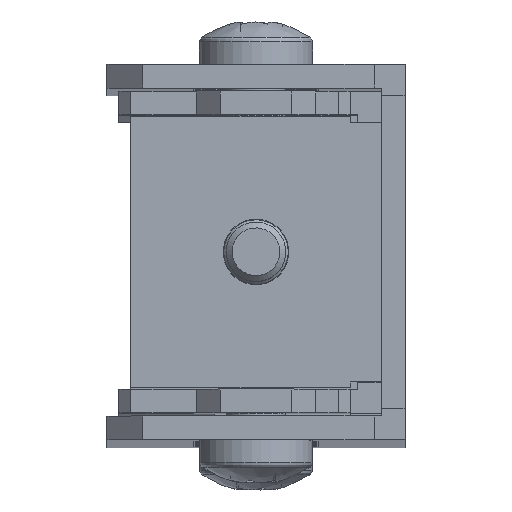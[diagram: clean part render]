
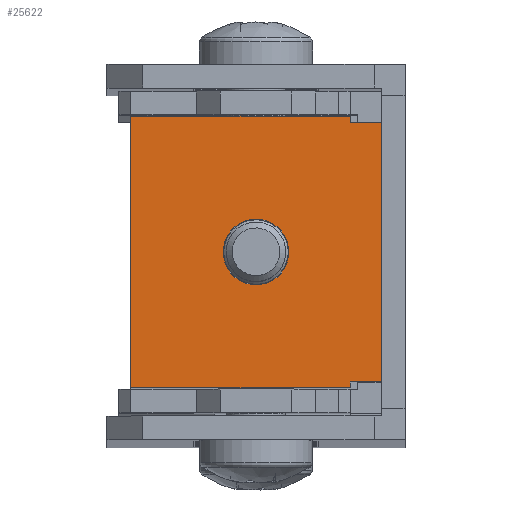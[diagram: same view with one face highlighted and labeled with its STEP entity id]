
A CAD part, top view. The second image highlights one B-rep face of the part: STEP entity #25622.
In plain terms, the highlighted planar face has unit normal (0, 0, 1) as drawn and (0, -1, 0) by its records, which use the part's own axes.
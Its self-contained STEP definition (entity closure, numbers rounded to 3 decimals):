
#24701 = VERTEX_POINT('',#24702);
#24702 = CARTESIAN_POINT('',(-10.9,-16.5,0.));
#24708 = EDGE_CURVE('',#24709,#24701,#24711,.T.);
#24709 = VERTEX_POINT('',#24710);
#24710 = CARTESIAN_POINT('',(10.9,-16.5,0.));
#24711 = LINE('',#24712,#24713);
#24712 = CARTESIAN_POINT('',(0.,-16.5,-0.));
#24713 = VECTOR('',#24714,1.);
#24714 = DIRECTION('',(-1.,0.,0.));
#25563 = VERTEX_POINT('',#25564);
#25564 = CARTESIAN_POINT('',(10.9,-16.5,-2.6));
#25579 = EDGE_CURVE('',#25563,#24709,#25580,.T.);
#25580 = LINE('',#25581,#25582);
#25581 = CARTESIAN_POINT('',(10.9,-16.5,-2.6));
#25582 = VECTOR('',#25583,1.);
#25583 = DIRECTION('',(-0.,0.,1.));
#25603 = VERTEX_POINT('',#25604);
#25604 = CARTESIAN_POINT('',(-10.9,-16.5,-2.6));
#25610 = EDGE_CURVE('',#25603,#24701,#25611,.T.);
#25611 = LINE('',#25612,#25613);
#25612 = CARTESIAN_POINT('',(-10.9,-16.5,0.));
#25613 = VECTOR('',#25614,1.);
#25614 = DIRECTION('',(0.,0.,1.));
#25622 = ADVANCED_FACE('',(#25623,#25634),#25677,.T.);
#25623 = FACE_BOUND('',#25624,.T.);
#25624 = EDGE_LOOP('',(#25625));
#25625 = ORIENTED_EDGE('',*,*,#25626,.T.);
#25626 = EDGE_CURVE('',#25627,#25627,#25629,.T.);
#25627 = VERTEX_POINT('',#25628);
#25628 = CARTESIAN_POINT('',(0.,-16.5,-7.75));
#25629 = CIRCLE('',#25630,2.75);
#25630 = AXIS2_PLACEMENT_3D('',#25631,#25632,#25633);
#25631 = CARTESIAN_POINT('',(0.,-16.5,-10.5));
#25632 = DIRECTION('',(0.,1.,0.));
#25633 = DIRECTION('',(0.,0.,1.));
#25634 = FACE_BOUND('',#25635,.T.);
#25635 = EDGE_LOOP('',(#25636,#25646,#25654,#25660,#25661,#25662,#25663,
    #25671));
#25636 = ORIENTED_EDGE('',*,*,#25637,.F.);
#25637 = EDGE_CURVE('',#25638,#25640,#25642,.T.);
#25638 = VERTEX_POINT('',#25639);
#25639 = CARTESIAN_POINT('',(11.4,-16.5,-21.));
#25640 = VERTEX_POINT('',#25641);
#25641 = CARTESIAN_POINT('',(-11.4,-16.5,-21.));
#25642 = LINE('',#25643,#25644);
#25643 = CARTESIAN_POINT('',(-10.9,-16.5,-21.));
#25644 = VECTOR('',#25645,1.);
#25645 = DIRECTION('',(-1.,0.,0.));
#25646 = ORIENTED_EDGE('',*,*,#25647,.F.);
#25647 = EDGE_CURVE('',#25648,#25638,#25650,.T.);
#25648 = VERTEX_POINT('',#25649);
#25649 = CARTESIAN_POINT('',(11.4,-16.5,-2.6));
#25650 = LINE('',#25651,#25652);
#25651 = CARTESIAN_POINT('',(11.4,-16.5,-2.6));
#25652 = VECTOR('',#25653,1.);
#25653 = DIRECTION('',(0.,0.,-1.));
#25654 = ORIENTED_EDGE('',*,*,#25655,.F.);
#25655 = EDGE_CURVE('',#25563,#25648,#25656,.T.);
#25656 = LINE('',#25657,#25658);
#25657 = CARTESIAN_POINT('',(10.9,-16.5,-2.6));
#25658 = VECTOR('',#25659,1.);
#25659 = DIRECTION('',(1.,0.,0.));
#25660 = ORIENTED_EDGE('',*,*,#25579,.T.);
#25661 = ORIENTED_EDGE('',*,*,#24708,.T.);
#25662 = ORIENTED_EDGE('',*,*,#25610,.F.);
#25663 = ORIENTED_EDGE('',*,*,#25664,.T.);
#25664 = EDGE_CURVE('',#25603,#25665,#25667,.T.);
#25665 = VERTEX_POINT('',#25666);
#25666 = CARTESIAN_POINT('',(-11.4,-16.5,-2.6));
#25667 = LINE('',#25668,#25669);
#25668 = CARTESIAN_POINT('',(-10.9,-16.5,-2.6));
#25669 = VECTOR('',#25670,1.);
#25670 = DIRECTION('',(-1.,0.,0.));
#25671 = ORIENTED_EDGE('',*,*,#25672,.T.);
#25672 = EDGE_CURVE('',#25665,#25640,#25673,.T.);
#25673 = LINE('',#25674,#25675);
#25674 = CARTESIAN_POINT('',(-11.4,-16.5,-2.6));
#25675 = VECTOR('',#25676,1.);
#25676 = DIRECTION('',(0.,0.,-1.));
#25677 = PLANE('',#25678);
#25678 = AXIS2_PLACEMENT_3D('',#25679,#25680,#25681);
#25679 = CARTESIAN_POINT('',(0.,-16.5,
    0.));
#25680 = DIRECTION('',(0.,-1.,0.));
#25681 = DIRECTION('',(0.,0.,-1.));
